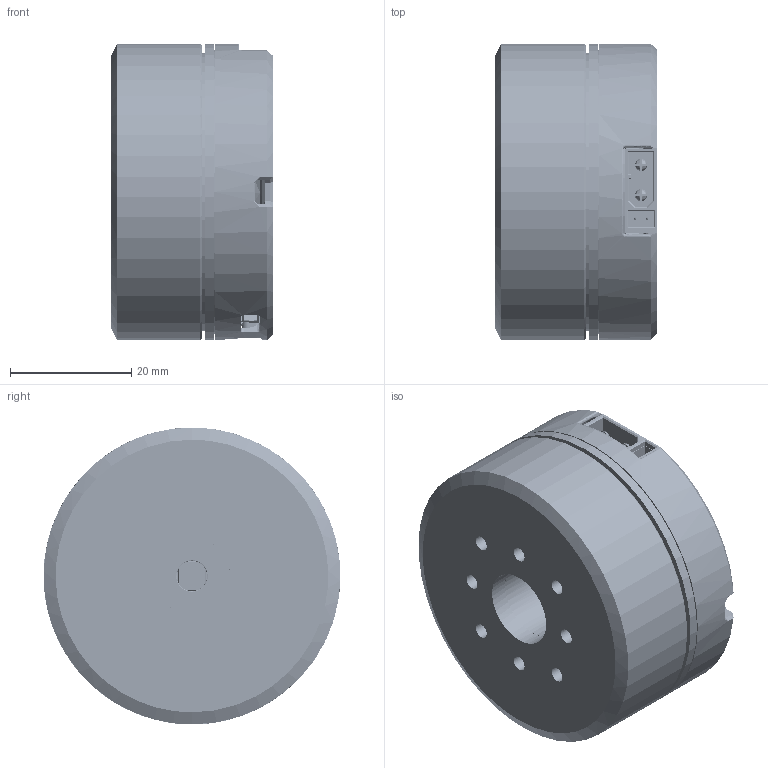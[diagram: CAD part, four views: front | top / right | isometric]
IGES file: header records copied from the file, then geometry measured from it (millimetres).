
Global section: file name: QD4310_V6.1; native system: unknown; preprocessor: unknown; author: unknown; organization: unknown; date: 20260411.002825; units: millimetre
Bounding box: 26.67 x 48.99 x 49 mm (x, y, z)
Volume: 35433.1 mm3; surface area: 27001.3 mm2
Topology: 456 solids, 480 shells, 36544 faces, 95623 edges, 62739 vertices
Faces by surface type: bspline 36544
